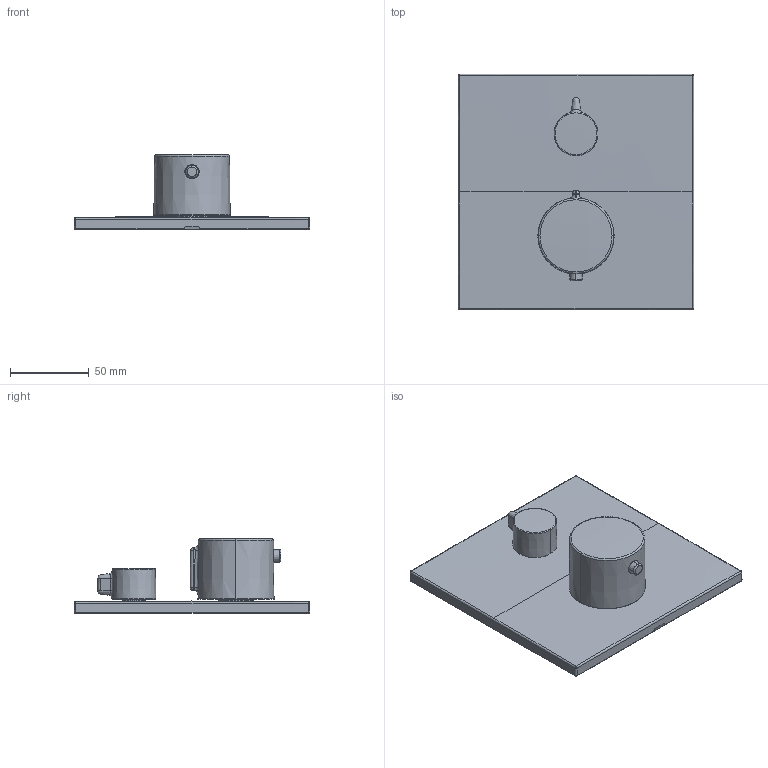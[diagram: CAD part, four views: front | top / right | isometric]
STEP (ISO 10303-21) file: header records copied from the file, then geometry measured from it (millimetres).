
FILE_DESCRIPTION (( 'STEP AP203' ), '1' );
FILE_NAME ('81149262(2025)+2098N(2025).STEP', '2025-06-25T07:01:16', ( '' ), ( '' ), 'SwSTEP 2.0', 'SolidWorks 2024', '' );
FILE_SCHEMA (( 'CONFIG_CONTROL_DESIGN' ));
Length unit declared in the file: millimetre
Products named in the file (1): 81149262(2025)+2098N(2025)
Bounding box: 149.99 x 149.99 x 47.61 mm (x, y, z)
Volume: 259815.1 mm3; surface area: 60969.9 mm2
Topology: 1 solids, 1 shells, 101 faces, 238 edges, 135 vertices
Faces by surface type: bspline 61, cylinder 16, cone 11, plane 11, torus 2
Entity records: 5549 total; most frequent: CARTESIAN_POINT 3618, ORIENTED_EDGE 454, DIRECTION 290, EDGE_CURVE 227, VERTEX_POINT 135, AXIS2_PLACEMENT_3D 121, EDGE_LOOP 108, FACE_OUTER_BOUND 101
